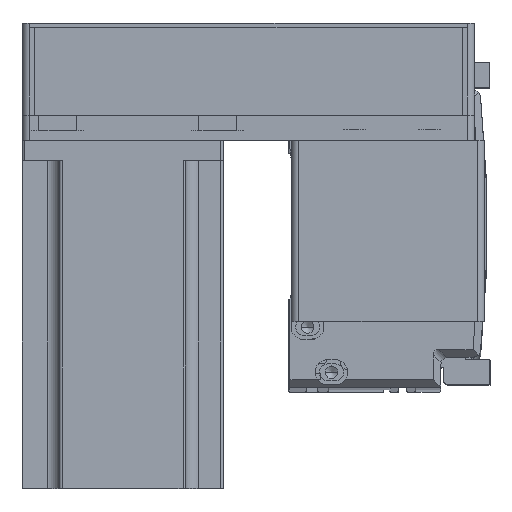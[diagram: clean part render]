
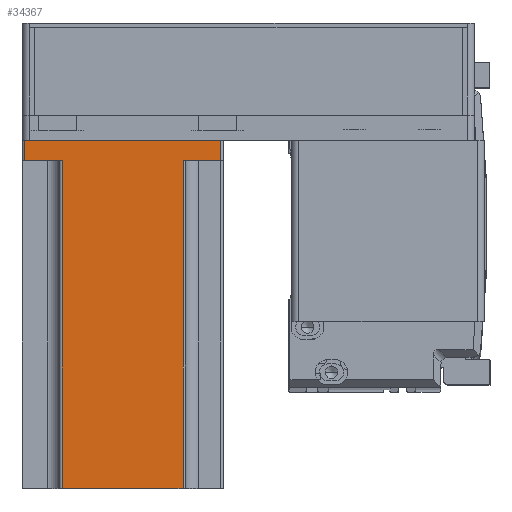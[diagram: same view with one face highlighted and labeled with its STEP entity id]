
A CAD part, top view. The second image highlights one B-rep face of the part: STEP entity #34367.
In plain terms, the highlighted planar face has unit normal (0, 0, 1) as drawn and (0, 1, 0) by its records, which use the part's own axes.
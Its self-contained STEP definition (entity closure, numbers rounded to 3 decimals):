
#25 = DIRECTION ( 'NONE',  ( 1., 0., 0. ) ) ;
#192 = VECTOR ( 'NONE', #50964, 1000. ) ;
#961 = ORIENTED_EDGE ( 'NONE', *, *, #31087, .F. ) ;
#1746 = VERTEX_POINT ( 'NONE', #25861 ) ;
#2094 = FACE_OUTER_BOUND ( 'NONE', #16122, .T. ) ;
#3704 = CARTESIAN_POINT ( 'NONE',  ( -24., 40., 138.3 ) ) ;
#5479 = EDGE_CURVE ( 'NONE', #45601, #22485, #24346, .T. ) ;
#6420 = CARTESIAN_POINT ( 'NONE',  ( -39., 40., 138.3 ) ) ;
#6720 = EDGE_CURVE ( 'NONE', #1746, #32805, #48358, .T. ) ;
#7060 = CARTESIAN_POINT ( 'NONE',  ( 25., 40., 8. ) ) ;
#7497 = CARTESIAN_POINT ( 'NONE',  ( 39., 40., 138.3 ) ) ;
#7620 = CARTESIAN_POINT ( 'NONE',  ( -25., 40., 8. ) ) ;
#8701 = CARTESIAN_POINT ( 'NONE',  ( -39., 40., 0. ) ) ;
#9765 = CARTESIAN_POINT ( 'NONE',  ( 24., 40., 138.3 ) ) ;
#10186 = LINE ( 'NONE', #6420, #29963 ) ;
#10204 = VECTOR ( 'NONE', #22934, 1000. ) ;
#11060 = DIRECTION ( 'NONE',  ( 0., -1., 0. ) ) ;
#13848 = EDGE_CURVE ( 'NONE', #24245, #1746, #51105, .T. ) ;
#13865 = VECTOR ( 'NONE', #38657, 1000. ) ;
#14076 = ORIENTED_EDGE ( 'NONE', *, *, #14101, .T. ) ;
#14101 = EDGE_CURVE ( 'NONE', #22485, #24245, #10186, .T. ) ;
#16122 = EDGE_LOOP ( 'NONE', ( #32211, #38316, #33422, #19371, #961, #47511, #42450, #14076 ) ) ;
#18673 = CARTESIAN_POINT ( 'NONE',  ( 24., 40., 8. ) ) ;
#18840 = DIRECTION ( 'NONE',  ( -1., 0., 0. ) ) ;
#19371 = ORIENTED_EDGE ( 'NONE', *, *, #40254, .T. ) ;
#19528 = CARTESIAN_POINT ( 'NONE',  ( 39., 40., 8. ) ) ;
#19952 = LINE ( 'NONE', #30605, #39780 ) ;
#21144 = VERTEX_POINT ( 'NONE', #18673 ) ;
#21934 = LINE ( 'NONE', #7060, #10204 ) ;
#22395 = CARTESIAN_POINT ( 'NONE',  ( -24., 40., 138.3 ) ) ;
#22485 = VERTEX_POINT ( 'NONE', #8701 ) ;
#22934 = DIRECTION ( 'NONE',  ( -1., 0., 0. ) ) ;
#23900 = EDGE_CURVE ( 'NONE', #50442, #45601, #31739, .T. ) ;
#24245 = VERTEX_POINT ( 'NONE', #37561 ) ;
#24346 = LINE ( 'NONE', #46535, #13865 ) ;
#25425 = VECTOR ( 'NONE', #50701, 1000. ) ;
#25861 = CARTESIAN_POINT ( 'NONE',  ( -24., 40., 8. ) ) ;
#26459 = VERTEX_POINT ( 'NONE', #9765 ) ;
#28866 = EDGE_CURVE ( 'NONE', #26459, #32805, #19952, .T. ) ;
#29963 = VECTOR ( 'NONE', #34107, 1000. ) ;
#30605 = CARTESIAN_POINT ( 'NONE',  ( 40., 40., 138.3 ) ) ;
#31087 = EDGE_CURVE ( 'NONE', #50442, #21144, #21934, .T. ) ;
#31739 = LINE ( 'NONE', #7497, #192 ) ;
#32211 = ORIENTED_EDGE ( 'NONE', *, *, #13848, .T. ) ;
#32805 = VERTEX_POINT ( 'NONE', #22395 ) ;
#33422 = ORIENTED_EDGE ( 'NONE', *, *, #28866, .F. ) ;
#34107 = DIRECTION ( 'NONE',  ( 0., 0., 1. ) ) ;
#34367 = ADVANCED_FACE ( 'NONE', ( #2094 ), #42528, .F. ) ;
#34777 = CARTESIAN_POINT ( 'NONE',  ( 40., 40., 138.3 ) ) ;
#35349 = DIRECTION ( 'NONE',  ( 0., 0., 1. ) ) ;
#37561 = CARTESIAN_POINT ( 'NONE',  ( -39., 40., 8. ) ) ;
#38316 = ORIENTED_EDGE ( 'NONE', *, *, #6720, .T. ) ;
#38657 = DIRECTION ( 'NONE',  ( -1., 0., 0. ) ) ;
#38725 = DIRECTION ( 'NONE',  ( 1., 0., 0. ) ) ;
#39780 = VECTOR ( 'NONE', #18840, 1000. ) ;
#40254 = EDGE_CURVE ( 'NONE', #26459, #21144, #43992, .T. ) ;
#42450 = ORIENTED_EDGE ( 'NONE', *, *, #5479, .T. ) ;
#42528 = PLANE ( 'NONE',  #43400 ) ;
#42699 = CARTESIAN_POINT ( 'NONE',  ( 24., 40., 138.3 ) ) ;
#43400 = AXIS2_PLACEMENT_3D ( 'NONE', #34777, #11060, #38725 ) ;
#43992 = LINE ( 'NONE', #42699, #25425 ) ;
#45371 = CARTESIAN_POINT ( 'NONE',  ( 39., 40., 0. ) ) ;
#45601 = VERTEX_POINT ( 'NONE', #45371 ) ;
#46535 = CARTESIAN_POINT ( 'NONE',  ( 40., 40., 0. ) ) ;
#47511 = ORIENTED_EDGE ( 'NONE', *, *, #23900, .T. ) ;
#48358 = LINE ( 'NONE', #3704, #49615 ) ;
#49615 = VECTOR ( 'NONE', #35349, 1000. ) ;
#49901 = VECTOR ( 'NONE', #25, 1000. ) ;
#50442 = VERTEX_POINT ( 'NONE', #19528 ) ;
#50701 = DIRECTION ( 'NONE',  ( 0., 0., -1. ) ) ;
#50964 = DIRECTION ( 'NONE',  ( 0., 0., -1. ) ) ;
#51105 = LINE ( 'NONE', #7620, #49901 ) ;
